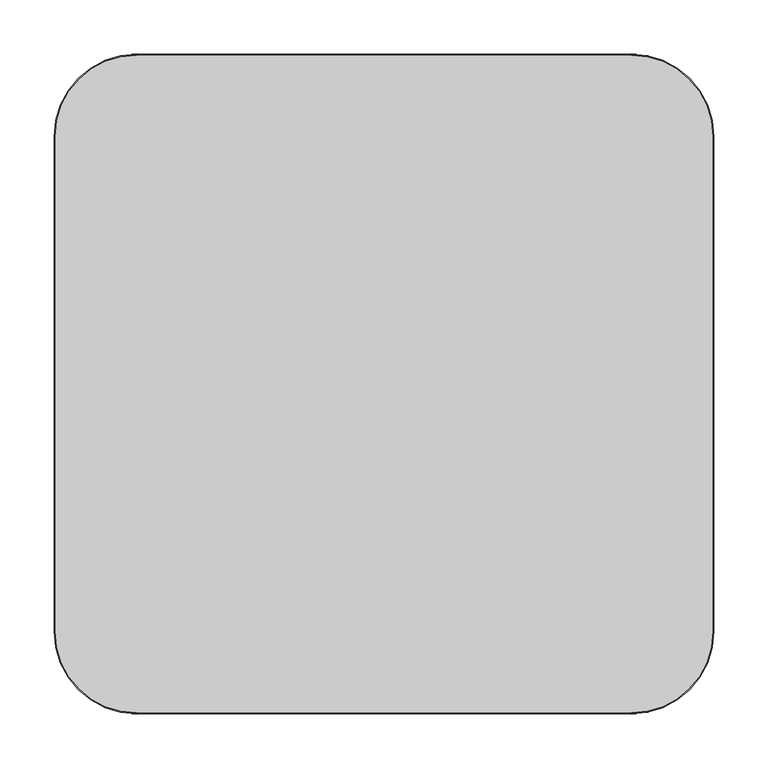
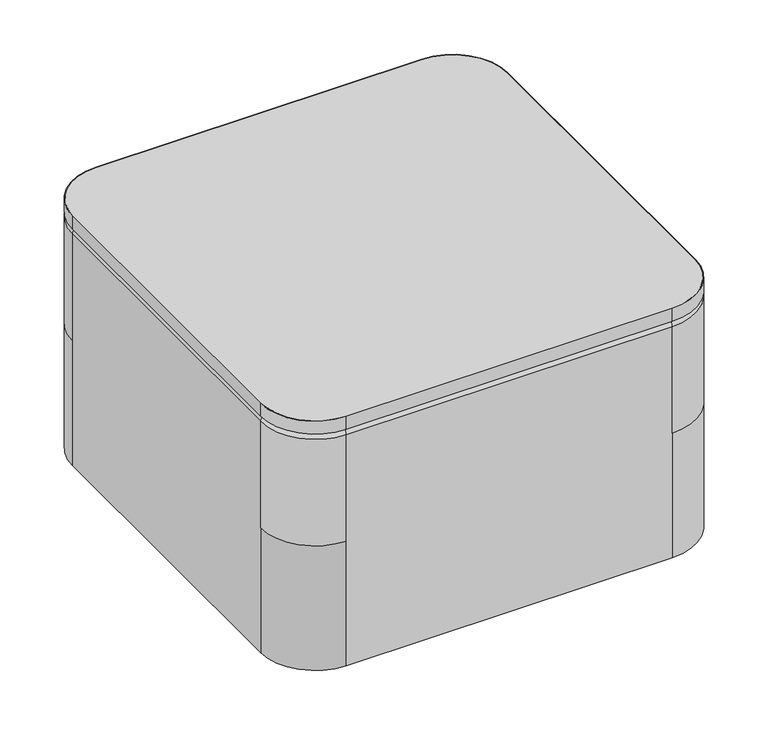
"""IFC4 building model written with IfcOpenShell, lengths in millimetres: furniture geometry, Indiana-Otty-Ottoman_Square_Table : 840-2415SOT."""

from ifc_helpers import new_model, si_unit, point, frame, frame_2d, origin, place, context, project, spatial, polyline, circle_curve, ellipse_curve, trimmed, segment, composite_curve, outline, extrude, source, transform, mapped, element, save
from ifc_brep_helpers import plane_surface, cylinder_surface, revolved_surface, advanced_brep


def furniture_a9f47ea0(model_context):
    return source(origin(), model_context, "Body", "SolidModel", [
        extrude(outline(composite_curve([segment(trimmed(circle_curve(frame_2d((228.6, 228.6)), 75.2078125), [point((228.6, 303.8078125))], [point((303.8078125, 228.6))], False, "CARTESIAN"), True, "CONTINUOUS"), segment(polyline([(303.8078125, 228.6), (303.8078125, -228.6)]), True, "CONTINUOUS"), segment(trimmed(circle_curve(frame_2d((228.6, -228.6)), 75.2078125), [point((303.8078125, -228.6))], [point((228.6, -303.8078125))], False, "CARTESIAN"), True, "CONTINUOUS"), segment(polyline([(228.6, -303.8078125), (-228.6, -303.8078125)]), True, "CONTINUOUS"), segment(trimmed(circle_curve(frame_2d((-228.6, -228.6)), 75.2078125), [point((-228.6, -303.8078125))], [point((-303.8078125, -228.6))], False, "CARTESIAN"), True, "CONTINUOUS"), segment(polyline([(-303.8078125, -228.6), (-303.8078125, 228.6)]), True, "CONTINUOUS"), segment(trimmed(circle_curve(frame_2d((-228.6, 228.6)), 75.2078125), [point((-303.8078125, 228.6))], [point((-228.6, 303.8078125))], False, "CARTESIAN"), True, "CONTINUOUS"), segment(polyline([(-228.6, 303.8078125), (228.6, 303.8078125)]), True, "CONTINUOUS")], self_intersect=False)), frame((0.0, 0.0, 361.95), z_axis=(0.0, 0.0, 1.0), x_axis=(1.0, 0.0, 0.0)), (0.0, 0.0, 1.0), 19.05),
        extrude(outline(composite_curve([segment(polyline([(-304.8, -228.6), (-304.8, 228.6)]), True, "CONTINUOUS"), segment(trimmed(circle_curve(frame_2d((-228.6, 228.6)), 76.2), [point((-304.8, 228.6))], [point((-228.6, 304.8))], False, "CARTESIAN"), True, "CONTINUOUS"), segment(polyline([(-228.6, 304.8), (228.6, 304.8)]), True, "CONTINUOUS"), segment(trimmed(circle_curve(frame_2d((228.6, 228.6)), 76.2), [point((228.6, 304.8))], [point((304.8, 228.6))], False, "CARTESIAN"), True, "CONTINUOUS"), segment(polyline([(304.8, 228.6), (304.8, -228.6)]), True, "CONTINUOUS"), segment(trimmed(circle_curve(frame_2d((228.6, -228.6)), 76.2), [point((304.8, -228.6))], [point((228.6, -304.8))], False, "CARTESIAN"), True, "CONTINUOUS"), segment(polyline([(228.6, -304.8), (-228.6, -304.8)]), True, "CONTINUOUS"), segment(trimmed(circle_curve(frame_2d((-228.6, -228.6)), 76.2), [point((-228.6, -304.8))], [point((-304.8, -228.6))], False, "CARTESIAN"), True, "CONTINUOUS")], self_intersect=False), holes=[composite_curve([segment(polyline([(228.6, 303.8078125), (-228.6, 303.8078125)]), True, "CONTINUOUS"), segment(trimmed(circle_curve(frame_2d((-228.6, 228.6)), 75.2078125), [point((-228.6, 303.8078125))], [point((-303.8078125, 228.6))], True, "CARTESIAN"), True, "CONTINUOUS"), segment(polyline([(-303.8078125, 228.6), (-303.8078125, -228.6)]), True, "CONTINUOUS"), segment(trimmed(circle_curve(frame_2d((-228.6, -228.6)), 75.2078125), [point((-303.8078125, -228.6))], [point((-228.6, -303.8078125))], True, "CARTESIAN"), True, "CONTINUOUS"), segment(polyline([(-228.6, -303.8078125), (228.6, -303.8078125)]), True, "CONTINUOUS"), segment(trimmed(circle_curve(frame_2d((228.6, -228.6)), 75.2078125), [point((228.6, -303.8078125))], [point((303.8078125, -228.6))], True, "CARTESIAN"), True, "CONTINUOUS"), segment(polyline([(303.8078125, -228.6), (303.8078125, 228.6)]), True, "CONTINUOUS"), segment(trimmed(circle_curve(frame_2d((228.6, 228.6)), 75.2078125), [point((303.8078125, 228.6))], [point((228.6, 303.8078125))], True, "CARTESIAN"), True, "CONTINUOUS")], self_intersect=False)]), frame((0.0, 0.0, 361.95), z_axis=(0.0, 0.0, 1.0), x_axis=(1.0, 0.0, 0.0)), (0.0, 0.0, 1.0), 19.05),
        advanced_brep(
        [(0.0, -250.825, 19.8875), (0.0, -273.325, 19.8875), (0.0, -228.325, 19.8875), (0.0, -272.8765082, 4.2458827), (0.0, -228.7734918, 4.2458827), (0.0, -268.3913665, -0.1125), (0.0, -233.2586335, -0.1125), (0.0, -261.0926178, -0.1125), (0.0, -240.5573822, -0.1125), (0.0, -257.1981417, 3.9179615), (0.0, -244.4518583, 3.9179615), (0.0, -250.825, 3.9179615)],
        [
            (0, 1),
            (1, 2, circle_curve(frame((0.0, -250.825, 19.8875), z_axis=(0.0, 0.0, 1.0), x_axis=(0.0, -1.0, 0.0)), 22.5)),
            (2, 0),
            (2, 1, circle_curve(frame((0.0, -250.825, 19.8875), z_axis=(0.0, 0.0, 1.0), x_axis=(0.0, -1.0, 0.0)), 22.5)),
            (1, 3),
            (3, 4, circle_curve(frame((0.0, -250.825, 4.2458827), z_axis=(0.0, 0.0, 1.0), x_axis=(0.0, -1.0, 0.0)), 22.0515082)),
            (4, 2),
            (4, 3, circle_curve(frame((0.0, -250.825, 4.2458827), z_axis=(0.0, 0.0, 1.0), x_axis=(0.0, -1.0, 0.0)), 22.0515082)),
            (3, 5, circle_curve(frame((0.0, -268.3913665, 4.3744851), z_axis=(1.0, 0.0, 0.0), x_axis=(0.0, 1.0, 0.0)), 4.4869851)),
            (5, 6, circle_curve(frame((0.0, -250.825, -0.1125), z_axis=(0.0, 0.0, 1.0), x_axis=(0.0, -1.0, 0.0)), 17.5663665)),
            (6, 4, circle_curve(frame((0.0, -233.2586335, 4.3744851), z_axis=(1.0, 0.0, 0.0), x_axis=(0.0, -1.0, 0.0)), 4.4869851)),
            (6, 5, circle_curve(frame((0.0, -250.825, -0.1125), z_axis=(0.0, 0.0, 1.0), x_axis=(0.0, -1.0, 0.0)), 17.5663665)),
            (5, 7),
            (7, 8, circle_curve(frame((0.0, -250.825, -0.1125), z_axis=(0.0, 0.0, 1.0), x_axis=(0.0, -1.0, 0.0)), 10.2676178)),
            (8, 6),
            (8, 7, circle_curve(frame((0.0, -250.825, -0.1125), z_axis=(0.0, 0.0, 1.0), x_axis=(0.0, -1.0, 0.0)), 10.2676178)),
            (7, 9, circle_curve(frame((0.0, -261.0926178, 3.7842702), z_axis=(1.0, 0.0, 0.0), x_axis=(0.0, 1.0, 0.0)), 3.8967702)),
            (9, 10, circle_curve(frame((0.0, -250.825, 3.9179615), z_axis=(0.0, 0.0, 1.0), x_axis=(0.0, -1.0, 0.0)), 6.3731417)),
            (10, 8, circle_curve(frame((0.0, -240.5573822, 3.7842702), z_axis=(1.0, 0.0, 0.0), x_axis=(0.0, -1.0, 0.0)), 3.8967702)),
            (10, 9, circle_curve(frame((0.0, -250.825, 3.9179615), z_axis=(0.0, 0.0, 1.0), x_axis=(0.0, -1.0, 0.0)), 6.3731417)),
            (9, 11),
            (11, 10),
        ],
        [
            plane_surface(frame((0.0, -250.825, 19.8875), z_axis=(0.0, 0.0, 1.0), x_axis=(0.0, -1.0, 0.0))),
            revolved_surface(polyline([(0.0, -272.8765082, 4.2458827), (0.0, -273.325, 19.8875)]), (0.0, -250.825, 31.0803862), (0.0, 0.0, 1.0)),
            revolved_surface(trimmed(ellipse_curve(frame((0.0, -268.3913665, 4.3744851), z_axis=(-1.0, 0.0, 0.0), x_axis=(0.0, 1.0, 0.0)), 4.4869851, 4.4869851), [point((0.0, -268.3913665, -0.1125))], [point((0.0, -272.8765082, 4.2458827))], True, "CARTESIAN"), (0.0, -250.825, 31.0803862), (0.0, 0.0, 1.0)),
            plane_surface(frame((0.0, -250.825, -0.1125), z_axis=(0.0, 0.0, -1.0), x_axis=(0.0, -1.0, 0.0))),
            revolved_surface(trimmed(ellipse_curve(frame((0.0, -261.0926178, 3.7842702), z_axis=(-1.0, 0.0, 0.0), x_axis=(0.0, 1.0, 0.0)), 3.8967702, 3.8967702), [point((0.0, -257.1981417, 3.9179615))], [point((0.0, -261.0926178, -0.1125))], True, "CARTESIAN"), (0.0, -250.825, 31.0803862), (0.0, 0.0, 1.0)),
            plane_surface(frame((0.0, -250.825, 3.9179615), z_axis=(0.0, 0.0, -1.0), x_axis=(0.0, -1.0, 0.0))),
        ],
        [
            (0, [[1, 2, 3]]),
            (0, [[-3, 4, -1]]),
            (1, [[-2, 5, 6, 7]]),
            (1, [[-4, -7, 8, -5]]),
            (2, [[-6, 9, 10, 11]]),
            (2, [[-8, -11, 12, -9]]),
            (3, [[-10, 13, 14, 15]]),
            (3, [[-12, -15, 16, -13]]),
            (4, [[-14, 17, 18, 19]]),
            (4, [[-16, -19, 20, -17]]),
            (5, [[-18, 21, 22]]),
            (5, [[-20, -22, -21]]),
        ],
    ),
        advanced_brep(
        [(0.0, 250.825, 19.8875), (0.0, 228.325, 19.8875), (0.0, 273.325, 19.8875), (0.0, 228.7734918, 4.2458827), (0.0, 272.8765082, 4.2458827), (0.0, 233.2586335, -0.1125), (0.0, 268.3913665, -0.1125), (0.0, 240.5573822, -0.1125), (0.0, 261.0926178, -0.1125), (0.0, 244.4518583, 3.9179615), (0.0, 257.1981417, 3.9179615), (0.0, 250.825, 3.9179615)],
        [
            (0, 1),
            (1, 2, circle_curve(frame((0.0, 250.825, 19.8875), z_axis=(0.0, 0.0, 1.0), x_axis=(0.0, -1.0, 0.0)), 22.5)),
            (2, 0),
            (2, 1, circle_curve(frame((0.0, 250.825, 19.8875), z_axis=(0.0, 0.0, 1.0), x_axis=(0.0, -1.0, 0.0)), 22.5)),
            (1, 3),
            (3, 4, circle_curve(frame((0.0, 250.825, 4.2458827), z_axis=(0.0, 0.0, 1.0), x_axis=(0.0, -1.0, 0.0)), 22.0515082)),
            (4, 2),
            (4, 3, circle_curve(frame((0.0, 250.825, 4.2458827), z_axis=(0.0, 0.0, 1.0), x_axis=(0.0, -1.0, 0.0)), 22.0515082)),
            (3, 5, circle_curve(frame((0.0, 233.2586335, 4.3744851), z_axis=(1.0, 0.0, 0.0), x_axis=(0.0, 1.0, 0.0)), 4.4869851)),
            (5, 6, circle_curve(frame((0.0, 250.825, -0.1125), z_axis=(0.0, 0.0, 1.0), x_axis=(0.0, -1.0, 0.0)), 17.5663665)),
            (6, 4, circle_curve(frame((0.0, 268.3913665, 4.3744851), z_axis=(1.0, 0.0, 0.0), x_axis=(0.0, -1.0, 0.0)), 4.4869851)),
            (6, 5, circle_curve(frame((0.0, 250.825, -0.1125), z_axis=(0.0, 0.0, 1.0), x_axis=(0.0, -1.0, 0.0)), 17.5663665)),
            (5, 7),
            (7, 8, circle_curve(frame((0.0, 250.825, -0.1125), z_axis=(0.0, 0.0, 1.0), x_axis=(0.0, -1.0, 0.0)), 10.2676178)),
            (8, 6),
            (8, 7, circle_curve(frame((0.0, 250.825, -0.1125), z_axis=(0.0, 0.0, 1.0), x_axis=(0.0, -1.0, 0.0)), 10.2676178)),
            (7, 9, circle_curve(frame((0.0, 240.5573822, 3.7842702), z_axis=(1.0, 0.0, 0.0), x_axis=(0.0, 1.0, 0.0)), 3.8967702)),
            (9, 10, circle_curve(frame((0.0, 250.825, 3.9179615), z_axis=(0.0, 0.0, 1.0), x_axis=(0.0, -1.0, 0.0)), 6.3731417)),
            (10, 8, circle_curve(frame((0.0, 261.0926178, 3.7842702), z_axis=(1.0, 0.0, 0.0), x_axis=(0.0, -1.0, 0.0)), 3.8967702)),
            (10, 9, circle_curve(frame((0.0, 250.825, 3.9179615), z_axis=(0.0, 0.0, 1.0), x_axis=(0.0, -1.0, 0.0)), 6.3731417)),
            (9, 11),
            (11, 10),
        ],
        [
            plane_surface(frame((0.0, 250.825, 19.8875), z_axis=(0.0, 0.0, 1.0), x_axis=(0.0, -1.0, 0.0))),
            revolved_surface(polyline([(0.0, 228.7734918, 4.2458827), (0.0, 228.325, 19.8875)]), (0.0, 250.825, 31.0803862), (0.0, 0.0, 1.0)),
            revolved_surface(trimmed(ellipse_curve(frame((0.0, 233.2586335, 4.3744851), z_axis=(-1.0, 0.0, 0.0), x_axis=(0.0, 1.0, 0.0)), 4.4869851, 4.4869851), [point((0.0, 233.2586335, -0.1125))], [point((0.0, 228.7734918, 4.2458827))], True, "CARTESIAN"), (0.0, 250.825, 31.0803862), (0.0, 0.0, 1.0)),
            plane_surface(frame((0.0, 250.825, -0.1125), z_axis=(0.0, 0.0, -1.0), x_axis=(0.0, -1.0, 0.0))),
            revolved_surface(trimmed(ellipse_curve(frame((0.0, 240.5573822, 3.7842702), z_axis=(-1.0, 0.0, 0.0), x_axis=(0.0, 1.0, 0.0)), 3.8967702, 3.8967702), [point((0.0, 244.4518583, 3.9179615))], [point((0.0, 240.5573822, -0.1125))], True, "CARTESIAN"), (0.0, 250.825, 31.0803862), (0.0, 0.0, 1.0)),
            plane_surface(frame((0.0, 250.825, 3.9179615), z_axis=(0.0, 0.0, -1.0), x_axis=(0.0, -1.0, 0.0))),
        ],
        [
            (0, [[1, 2, 3]]),
            (0, [[-3, 4, -1]]),
            (1, [[-2, 5, 6, 7]]),
            (1, [[-4, -7, 8, -5]]),
            (2, [[-6, 9, 10, 11]]),
            (2, [[-8, -11, 12, -9]]),
            (3, [[-10, 13, 14, 15]]),
            (3, [[-12, -15, 16, -13]]),
            (4, [[-14, 17, 18, 19]]),
            (4, [[-16, -19, 20, -17]]),
            (5, [[-18, 21, 22]]),
            (5, [[-20, -22, -21]]),
        ],
    ),
        advanced_brep(
        [(250.825, -250.825, 19.8875), (250.825, -273.325, 19.8875), (250.825, -228.325, 19.8875), (250.825, -272.8765082, 4.2458827), (250.825, -228.7734918, 4.2458827), (250.825, -268.3913665, -0.1125), (250.825, -233.2586335, -0.1125), (250.825, -261.0926178, -0.1125), (250.825, -240.5573822, -0.1125), (250.825, -257.1981417, 3.9179615), (250.825, -244.4518583, 3.9179615), (250.825, -250.825, 3.9179615)],
        [
            (0, 1),
            (1, 2, circle_curve(frame((250.825, -250.825, 19.8875), z_axis=(0.0, 0.0, 1.0), x_axis=(0.0, -1.0, 0.0)), 22.5)),
            (2, 0),
            (2, 1, circle_curve(frame((250.825, -250.825, 19.8875), z_axis=(0.0, 0.0, 1.0), x_axis=(0.0, -1.0, 0.0)), 22.5)),
            (1, 3),
            (3, 4, circle_curve(frame((250.825, -250.825, 4.2458827), z_axis=(0.0, 0.0, 1.0), x_axis=(0.0, -1.0, 0.0)), 22.0515082)),
            (4, 2),
            (4, 3, circle_curve(frame((250.825, -250.825, 4.2458827), z_axis=(0.0, 0.0, 1.0), x_axis=(0.0, -1.0, 0.0)), 22.0515082)),
            (3, 5, circle_curve(frame((250.825, -268.3913665, 4.3744851), z_axis=(1.0, 0.0, 0.0), x_axis=(0.0, 1.0, 0.0)), 4.4869851)),
            (5, 6, circle_curve(frame((250.825, -250.825, -0.1125), z_axis=(0.0, 0.0, 1.0), x_axis=(0.0, -1.0, 0.0)), 17.5663665)),
            (6, 4, circle_curve(frame((250.825, -233.2586335, 4.3744851), z_axis=(1.0, 0.0, 0.0), x_axis=(0.0, -1.0, 0.0)), 4.4869851)),
            (6, 5, circle_curve(frame((250.825, -250.825, -0.1125), z_axis=(0.0, 0.0, 1.0), x_axis=(0.0, -1.0, 0.0)), 17.5663665)),
            (5, 7),
            (7, 8, circle_curve(frame((250.825, -250.825, -0.1125), z_axis=(0.0, 0.0, 1.0), x_axis=(0.0, -1.0, 0.0)), 10.2676178)),
            (8, 6),
            (8, 7, circle_curve(frame((250.825, -250.825, -0.1125), z_axis=(0.0, 0.0, 1.0), x_axis=(0.0, -1.0, 0.0)), 10.2676178)),
            (7, 9, circle_curve(frame((250.825, -261.0926178, 3.7842702), z_axis=(1.0, 0.0, 0.0), x_axis=(0.0, 1.0, 0.0)), 3.8967702)),
            (9, 10, circle_curve(frame((250.825, -250.825, 3.9179615), z_axis=(0.0, 0.0, 1.0), x_axis=(0.0, -1.0, 0.0)), 6.3731417)),
            (10, 8, circle_curve(frame((250.825, -240.5573822, 3.7842702), z_axis=(1.0, 0.0, 0.0), x_axis=(0.0, -1.0, 0.0)), 3.8967702)),
            (10, 9, circle_curve(frame((250.825, -250.825, 3.9179615), z_axis=(0.0, 0.0, 1.0), x_axis=(0.0, -1.0, 0.0)), 6.3731417)),
            (9, 11),
            (11, 10),
        ],
        [
            plane_surface(frame((250.825, -250.825, 19.8875), z_axis=(0.0, 0.0, 1.0), x_axis=(0.0, -1.0, 0.0))),
            revolved_surface(polyline([(250.825, -272.8765082, 4.2458827), (250.825, -273.325, 19.8875)]), (250.825, -250.825, 31.0803862), (0.0, 0.0, 1.0)),
            revolved_surface(trimmed(ellipse_curve(frame((250.825, -268.3913665, 4.3744851), z_axis=(-1.0, 0.0, 0.0), x_axis=(0.0, 1.0, 0.0)), 4.4869851, 4.4869851), [point((250.825, -268.3913665, -0.1125))], [point((250.825, -272.8765082, 4.2458827))], True, "CARTESIAN"), (250.825, -250.825, 31.0803862), (0.0, 0.0, 1.0)),
            plane_surface(frame((250.825, -250.825, -0.1125), z_axis=(0.0, 0.0, -1.0), x_axis=(0.0, -1.0, 0.0))),
            revolved_surface(trimmed(ellipse_curve(frame((250.825, -261.0926178, 3.7842702), z_axis=(-1.0, 0.0, 0.0), x_axis=(0.0, 1.0, 0.0)), 3.8967702, 3.8967702), [point((250.825, -257.1981417, 3.9179615))], [point((250.825, -261.0926178, -0.1125))], True, "CARTESIAN"), (250.825, -250.825, 31.0803862), (0.0, 0.0, 1.0)),
            plane_surface(frame((250.825, -250.825, 3.9179615), z_axis=(0.0, 0.0, -1.0), x_axis=(0.0, -1.0, 0.0))),
        ],
        [
            (0, [[1, 2, 3]]),
            (0, [[-3, 4, -1]]),
            (1, [[-2, 5, 6, 7]]),
            (1, [[-4, -7, 8, -5]]),
            (2, [[-6, 9, 10, 11]]),
            (2, [[-8, -11, 12, -9]]),
            (3, [[-10, 13, 14, 15]]),
            (3, [[-12, -15, 16, -13]]),
            (4, [[-14, 17, 18, 19]]),
            (4, [[-16, -19, 20, -17]]),
            (5, [[-18, 21, 22]]),
            (5, [[-20, -22, -21]]),
        ],
    ),
        advanced_brep(
        [(250.825, 250.825, 19.8875), (250.825, 228.325, 19.8875), (250.825, 273.325, 19.8875), (250.825, 228.7734918, 4.2458827), (250.825, 272.8765082, 4.2458827), (250.825, 233.2586335, -0.1125), (250.825, 268.3913665, -0.1125), (250.825, 240.5573822, -0.1125), (250.825, 261.0926178, -0.1125), (250.825, 244.4518583, 3.9179615), (250.825, 257.1981417, 3.9179615), (250.825, 250.825, 3.9179615)],
        [
            (0, 1),
            (1, 2, circle_curve(frame((250.825, 250.825, 19.8875), z_axis=(0.0, 0.0, 1.0), x_axis=(0.0, -1.0, 0.0)), 22.5)),
            (2, 0),
            (2, 1, circle_curve(frame((250.825, 250.825, 19.8875), z_axis=(0.0, 0.0, 1.0), x_axis=(0.0, -1.0, 0.0)), 22.5)),
            (1, 3),
            (3, 4, circle_curve(frame((250.825, 250.825, 4.2458827), z_axis=(0.0, 0.0, 1.0), x_axis=(0.0, -1.0, 0.0)), 22.0515082)),
            (4, 2),
            (4, 3, circle_curve(frame((250.825, 250.825, 4.2458827), z_axis=(0.0, 0.0, 1.0), x_axis=(0.0, -1.0, 0.0)), 22.0515082)),
            (3, 5, circle_curve(frame((250.825, 233.2586335, 4.3744851), z_axis=(1.0, 0.0, 0.0), x_axis=(0.0, 1.0, 0.0)), 4.4869851)),
            (5, 6, circle_curve(frame((250.825, 250.825, -0.1125), z_axis=(0.0, 0.0, 1.0), x_axis=(0.0, -1.0, 0.0)), 17.5663665)),
            (6, 4, circle_curve(frame((250.825, 268.3913665, 4.3744851), z_axis=(1.0, 0.0, 0.0), x_axis=(0.0, -1.0, 0.0)), 4.4869851)),
            (6, 5, circle_curve(frame((250.825, 250.825, -0.1125), z_axis=(0.0, 0.0, 1.0), x_axis=(0.0, -1.0, 0.0)), 17.5663665)),
            (5, 7),
            (7, 8, circle_curve(frame((250.825, 250.825, -0.1125), z_axis=(0.0, 0.0, 1.0), x_axis=(0.0, -1.0, 0.0)), 10.2676178)),
            (8, 6),
            (8, 7, circle_curve(frame((250.825, 250.825, -0.1125), z_axis=(0.0, 0.0, 1.0), x_axis=(0.0, -1.0, 0.0)), 10.2676178)),
            (7, 9, circle_curve(frame((250.825, 240.5573822, 3.7842702), z_axis=(1.0, 0.0, 0.0), x_axis=(0.0, 1.0, 0.0)), 3.8967702)),
            (9, 10, circle_curve(frame((250.825, 250.825, 3.9179615), z_axis=(0.0, 0.0, 1.0), x_axis=(0.0, -1.0, 0.0)), 6.3731417)),
            (10, 8, circle_curve(frame((250.825, 261.0926178, 3.7842702), z_axis=(1.0, 0.0, 0.0), x_axis=(0.0, -1.0, 0.0)), 3.8967702)),
            (10, 9, circle_curve(frame((250.825, 250.825, 3.9179615), z_axis=(0.0, 0.0, 1.0), x_axis=(0.0, -1.0, 0.0)), 6.3731417)),
            (9, 11),
            (11, 10),
        ],
        [
            plane_surface(frame((250.825, 250.825, 19.8875), z_axis=(0.0, 0.0, 1.0), x_axis=(0.0, -1.0, 0.0))),
            revolved_surface(polyline([(250.825, 228.7734918, 4.2458827), (250.825, 228.325, 19.8875)]), (250.825, 250.825, 31.0803862), (0.0, 0.0, 1.0)),
            revolved_surface(trimmed(ellipse_curve(frame((250.825, 233.2586335, 4.3744851), z_axis=(-1.0, 0.0, 0.0), x_axis=(0.0, 1.0, 0.0)), 4.4869851, 4.4869851), [point((250.825, 233.2586335, -0.1125))], [point((250.825, 228.7734918, 4.2458827))], True, "CARTESIAN"), (250.825, 250.825, 31.0803862), (0.0, 0.0, 1.0)),
            plane_surface(frame((250.825, 250.825, -0.1125), z_axis=(0.0, 0.0, -1.0), x_axis=(0.0, -1.0, 0.0))),
            revolved_surface(trimmed(ellipse_curve(frame((250.825, 240.5573822, 3.7842702), z_axis=(-1.0, 0.0, 0.0), x_axis=(0.0, 1.0, 0.0)), 3.8967702, 3.8967702), [point((250.825, 244.4518583, 3.9179615))], [point((250.825, 240.5573822, -0.1125))], True, "CARTESIAN"), (250.825, 250.825, 31.0803862), (0.0, 0.0, 1.0)),
            plane_surface(frame((250.825, 250.825, 3.9179615), z_axis=(0.0, 0.0, -1.0), x_axis=(0.0, -1.0, 0.0))),
        ],
        [
            (0, [[1, 2, 3]]),
            (0, [[-3, 4, -1]]),
            (1, [[-2, 5, 6, 7]]),
            (1, [[-4, -7, 8, -5]]),
            (2, [[-6, 9, 10, 11]]),
            (2, [[-8, -11, 12, -9]]),
            (3, [[-10, 13, 14, 15]]),
            (3, [[-12, -15, 16, -13]]),
            (4, [[-14, 17, 18, 19]]),
            (4, [[-16, -19, 20, -17]]),
            (5, [[-18, 21, 22]]),
            (5, [[-20, -22, -21]]),
        ],
    ),
        advanced_brep(
        [(-250.825, -250.825, 19.8875), (-250.825, -273.325, 19.8875), (-250.825, -228.325, 19.8875), (-250.825, -272.8765082, 4.2458827), (-250.825, -228.7734918, 4.2458827), (-250.825, -268.3913665, -0.1125), (-250.825, -233.2586335, -0.1125), (-250.825, -261.0926178, -0.1125), (-250.825, -240.5573822, -0.1125), (-250.825, -257.1981417, 3.9179615), (-250.825, -244.4518583, 3.9179615), (-250.825, -250.825, 3.9179615)],
        [
            (0, 1),
            (1, 2, circle_curve(frame((-250.825, -250.825, 19.8875), z_axis=(0.0, 0.0, 1.0), x_axis=(0.0, -1.0, 0.0)), 22.5)),
            (2, 0),
            (2, 1, circle_curve(frame((-250.825, -250.825, 19.8875), z_axis=(0.0, 0.0, 1.0), x_axis=(0.0, -1.0, 0.0)), 22.5)),
            (1, 3),
            (3, 4, circle_curve(frame((-250.825, -250.825, 4.2458827), z_axis=(0.0, 0.0, 1.0), x_axis=(0.0, -1.0, 0.0)), 22.0515082)),
            (4, 2),
            (4, 3, circle_curve(frame((-250.825, -250.825, 4.2458827), z_axis=(0.0, 0.0, 1.0), x_axis=(0.0, -1.0, 0.0)), 22.0515082)),
            (3, 5, circle_curve(frame((-250.825, -268.3913665, 4.3744851), z_axis=(1.0, 0.0, 0.0), x_axis=(0.0, 1.0, 0.0)), 4.4869851)),
            (5, 6, circle_curve(frame((-250.825, -250.825, -0.1125), z_axis=(0.0, 0.0, 1.0), x_axis=(0.0, -1.0, 0.0)), 17.5663665)),
            (6, 4, circle_curve(frame((-250.825, -233.2586335, 4.3744851), z_axis=(1.0, 0.0, 0.0), x_axis=(0.0, -1.0, 0.0)), 4.4869851)),
            (6, 5, circle_curve(frame((-250.825, -250.825, -0.1125), z_axis=(0.0, 0.0, 1.0), x_axis=(0.0, -1.0, 0.0)), 17.5663665)),
            (5, 7),
            (7, 8, circle_curve(frame((-250.825, -250.825, -0.1125), z_axis=(0.0, 0.0, 1.0), x_axis=(0.0, -1.0, 0.0)), 10.2676178)),
            (8, 6),
            (8, 7, circle_curve(frame((-250.825, -250.825, -0.1125), z_axis=(0.0, 0.0, 1.0), x_axis=(0.0, -1.0, 0.0)), 10.2676178)),
            (7, 9, circle_curve(frame((-250.825, -261.0926178, 3.7842702), z_axis=(1.0, 0.0, 0.0), x_axis=(0.0, 1.0, 0.0)), 3.8967702)),
            (9, 10, circle_curve(frame((-250.825, -250.825, 3.9179615), z_axis=(0.0, 0.0, 1.0), x_axis=(0.0, -1.0, 0.0)), 6.3731417)),
            (10, 8, circle_curve(frame((-250.825, -240.5573822, 3.7842702), z_axis=(1.0, 0.0, 0.0), x_axis=(0.0, -1.0, 0.0)), 3.8967702)),
            (10, 9, circle_curve(frame((-250.825, -250.825, 3.9179615), z_axis=(0.0, 0.0, 1.0), x_axis=(0.0, -1.0, 0.0)), 6.3731417)),
            (9, 11),
            (11, 10),
        ],
        [
            plane_surface(frame((-250.825, -250.825, 19.8875), z_axis=(0.0, 0.0, 1.0), x_axis=(0.0, -1.0, 0.0))),
            revolved_surface(polyline([(-250.825, -272.8765082, 4.2458827), (-250.825, -273.325, 19.8875)]), (-250.825, -250.825, 31.0803862), (0.0, 0.0, 1.0)),
            revolved_surface(trimmed(ellipse_curve(frame((-250.825, -268.3913665, 4.3744851), z_axis=(-1.0, 0.0, 0.0), x_axis=(0.0, 1.0, 0.0)), 4.4869851, 4.4869851), [point((-250.825, -268.3913665, -0.1125))], [point((-250.825, -272.8765082, 4.2458827))], True, "CARTESIAN"), (-250.825, -250.825, 31.0803862), (0.0, 0.0, 1.0)),
            plane_surface(frame((-250.825, -250.825, -0.1125), z_axis=(0.0, 0.0, -1.0), x_axis=(0.0, -1.0, 0.0))),
            revolved_surface(trimmed(ellipse_curve(frame((-250.825, -261.0926178, 3.7842702), z_axis=(-1.0, 0.0, 0.0), x_axis=(0.0, 1.0, 0.0)), 3.8967702, 3.8967702), [point((-250.825, -257.1981417, 3.9179615))], [point((-250.825, -261.0926178, -0.1125))], True, "CARTESIAN"), (-250.825, -250.825, 31.0803862), (0.0, 0.0, 1.0)),
            plane_surface(frame((-250.825, -250.825, 3.9179615), z_axis=(0.0, 0.0, -1.0), x_axis=(0.0, -1.0, 0.0))),
        ],
        [
            (0, [[1, 2, 3]]),
            (0, [[-3, 4, -1]]),
            (1, [[-2, 5, 6, 7]]),
            (1, [[-4, -7, 8, -5]]),
            (2, [[-6, 9, 10, 11]]),
            (2, [[-8, -11, 12, -9]]),
            (3, [[-10, 13, 14, 15]]),
            (3, [[-12, -15, 16, -13]]),
            (4, [[-14, 17, 18, 19]]),
            (4, [[-16, -19, 20, -17]]),
            (5, [[-18, 21, 22]]),
            (5, [[-20, -22, -21]]),
        ],
    ),
        advanced_brep(
        [(-250.825, 250.825, 19.8875), (-250.825, 228.325, 19.8875), (-250.825, 273.325, 19.8875), (-250.825, 228.7734918, 4.2458827), (-250.825, 272.8765082, 4.2458827), (-250.825, 233.2586335, -0.1125), (-250.825, 268.3913665, -0.1125), (-250.825, 240.5573822, -0.1125), (-250.825, 261.0926178, -0.1125), (-250.825, 244.4518583, 3.9179615), (-250.825, 257.1981417, 3.9179615), (-250.825, 250.825, 3.9179615)],
        [
            (0, 1),
            (1, 2, circle_curve(frame((-250.825, 250.825, 19.8875), z_axis=(0.0, 0.0, 1.0), x_axis=(0.0, -1.0, 0.0)), 22.5)),
            (2, 0),
            (2, 1, circle_curve(frame((-250.825, 250.825, 19.8875), z_axis=(0.0, 0.0, 1.0), x_axis=(0.0, -1.0, 0.0)), 22.5)),
            (1, 3),
            (3, 4, circle_curve(frame((-250.825, 250.825, 4.2458827), z_axis=(0.0, 0.0, 1.0), x_axis=(0.0, -1.0, 0.0)), 22.0515082)),
            (4, 2),
            (4, 3, circle_curve(frame((-250.825, 250.825, 4.2458827), z_axis=(0.0, 0.0, 1.0), x_axis=(0.0, -1.0, 0.0)), 22.0515082)),
            (3, 5, circle_curve(frame((-250.825, 233.2586335, 4.3744851), z_axis=(1.0, 0.0, 0.0), x_axis=(0.0, 1.0, 0.0)), 4.4869851)),
            (5, 6, circle_curve(frame((-250.825, 250.825, -0.1125), z_axis=(0.0, 0.0, 1.0), x_axis=(0.0, -1.0, 0.0)), 17.5663665)),
            (6, 4, circle_curve(frame((-250.825, 268.3913665, 4.3744851), z_axis=(1.0, 0.0, 0.0), x_axis=(0.0, -1.0, 0.0)), 4.4869851)),
            (6, 5, circle_curve(frame((-250.825, 250.825, -0.1125), z_axis=(0.0, 0.0, 1.0), x_axis=(0.0, -1.0, 0.0)), 17.5663665)),
            (5, 7),
            (7, 8, circle_curve(frame((-250.825, 250.825, -0.1125), z_axis=(0.0, 0.0, 1.0), x_axis=(0.0, -1.0, 0.0)), 10.2676178)),
            (8, 6),
            (8, 7, circle_curve(frame((-250.825, 250.825, -0.1125), z_axis=(0.0, 0.0, 1.0), x_axis=(0.0, -1.0, 0.0)), 10.2676178)),
            (7, 9, circle_curve(frame((-250.825, 240.5573822, 3.7842702), z_axis=(1.0, 0.0, 0.0), x_axis=(0.0, 1.0, 0.0)), 3.8967702)),
            (9, 10, circle_curve(frame((-250.825, 250.825, 3.9179615), z_axis=(0.0, 0.0, 1.0), x_axis=(0.0, -1.0, 0.0)), 6.3731417)),
            (10, 8, circle_curve(frame((-250.825, 261.0926178, 3.7842702), z_axis=(1.0, 0.0, 0.0), x_axis=(0.0, -1.0, 0.0)), 3.8967702)),
            (10, 9, circle_curve(frame((-250.825, 250.825, 3.9179615), z_axis=(0.0, 0.0, 1.0), x_axis=(0.0, -1.0, 0.0)), 6.3731417)),
            (9, 11),
            (11, 10),
        ],
        [
            plane_surface(frame((-250.825, 250.825, 19.8875), z_axis=(0.0, 0.0, 1.0), x_axis=(0.0, -1.0, 0.0))),
            revolved_surface(polyline([(-250.825, 228.7734918, 4.2458827), (-250.825, 228.325, 19.8875)]), (-250.825, 250.825, 31.0803862), (0.0, 0.0, 1.0)),
            revolved_surface(trimmed(ellipse_curve(frame((-250.825, 233.2586335, 4.3744851), z_axis=(-1.0, 0.0, 0.0), x_axis=(0.0, 1.0, 0.0)), 4.4869851, 4.4869851), [point((-250.825, 233.2586335, -0.1125))], [point((-250.825, 228.7734918, 4.2458827))], True, "CARTESIAN"), (-250.825, 250.825, 31.0803862), (0.0, 0.0, 1.0)),
            plane_surface(frame((-250.825, 250.825, -0.1125), z_axis=(0.0, 0.0, -1.0), x_axis=(0.0, -1.0, 0.0))),
            revolved_surface(trimmed(ellipse_curve(frame((-250.825, 240.5573822, 3.7842702), z_axis=(-1.0, 0.0, 0.0), x_axis=(0.0, 1.0, 0.0)), 3.8967702, 3.8967702), [point((-250.825, 244.4518583, 3.9179615))], [point((-250.825, 240.5573822, -0.1125))], True, "CARTESIAN"), (-250.825, 250.825, 31.0803862), (0.0, 0.0, 1.0)),
            plane_surface(frame((-250.825, 250.825, 3.9179615), z_axis=(0.0, 0.0, -1.0), x_axis=(0.0, -1.0, 0.0))),
        ],
        [
            (0, [[1, 2, 3]]),
            (0, [[-3, 4, -1]]),
            (1, [[-2, 5, 6, 7]]),
            (1, [[-4, -7, 8, -5]]),
            (2, [[-6, 9, 10, 11]]),
            (2, [[-8, -11, 12, -9]]),
            (3, [[-10, 13, 14, 15]]),
            (3, [[-12, -15, 16, -13]]),
            (4, [[-14, 17, 18, 19]]),
            (4, [[-16, -19, 20, -17]]),
            (5, [[-18, 21, 22]]),
            (5, [[-20, -22, -21]]),
        ],
    ),
        advanced_brep(
        [(228.6, 304.8, 196.25), (228.6, 304.8, 354.0043778), (304.8, 228.6, 354.0043778), (304.8, 228.6, 196.25), (304.8, -228.6, 354.0043778), (304.8, -228.6, 196.25), (304.8, -228.6, 11.5), (304.8, 228.6, 11.5), (228.6, -304.8, 354.0043778), (228.6, -304.8, 196.25), (-228.6, -304.8, 354.0043778), (-228.6, -304.8, 196.25), (-228.6, -304.8, 11.5), (228.6, -304.8, 11.5), (-304.8, -228.6, 354.0043778), (-304.8, -228.6, 196.25), (-304.8, 228.6, 354.0043778), (-304.8, 228.6, 196.25), (-304.8, 228.6, 11.5), (-304.8, -228.6, 11.5), (-228.6, 304.8, 354.0043778), (-228.6, 304.8, 196.25), (228.6, 296.8543778, 361.95), (-228.6, 296.8543778, 361.95), (-296.8543778, 228.6, 361.95), (-296.8543778, -228.6, 361.95), (-228.6, -296.8543778, 361.95), (228.6, -296.8543778, 361.95), (296.8543778, -228.6, 361.95), (296.8543778, 228.6, 361.95), (228.6, 304.8, 11.5), (-228.6, 304.8, 11.5), (-273.84375, -250.825, 11.5), (-227.80625, -250.825, 11.5), (-273.84375, 250.825, 11.5), (-227.80625, 250.825, 11.5), (227.80625, 250.825, 11.5), (273.84375, 250.825, 11.5), (227.80625, -250.825, 11.5), (273.84375, -250.825, 11.5), (-23.01875, 250.825, 11.5), (23.01875, 250.825, 11.5), (-23.01875, -250.825, 11.5), (23.01875, -250.825, 11.5), (-227.80625, -250.825, 19.834375), (-273.84375, -250.825, 19.834375), (-227.80625, 250.825, 19.834375), (-273.84375, 250.825, 19.834375), (227.80625, 250.825, 19.834375), (273.84375, 250.825, 19.834375), (227.80625, -250.825, 19.834375), (273.84375, -250.825, 19.834375), (-23.01875, 250.825, 19.834375), (23.01875, 250.825, 19.834375), (-23.01875, -250.825, 19.834375), (23.01875, -250.825, 19.834375)],
        [
            (0, 1),
            (1, 2, circle_curve(frame((228.6, 228.6, 354.0043778), z_axis=(0.0, 0.0, -1.0), x_axis=(0.0, 1.0, 0.0)), 76.2)),
            (2, 3),
            (3, 0, circle_curve(frame((228.6, 228.6, 196.25), z_axis=(0.0, 0.0, 1.0), x_axis=(0.0, 1.0, 0.0)), 76.2)),
            (2, 4),
            (4, 5),
            (5, 6),
            (6, 7),
            (7, 3),
            (4, 8, circle_curve(frame((228.6, -228.6, 354.0043778), z_axis=(0.0, 0.0, -1.0), x_axis=(1.0, 0.0, 0.0)), 76.2)),
            (8, 9),
            (9, 5, circle_curve(frame((228.6, -228.6, 196.25), z_axis=(0.0, 0.0, 1.0), x_axis=(1.0, 0.0, 0.0)), 76.2)),
            (8, 10),
            (10, 11),
            (11, 12),
            (12, 13),
            (13, 9),
            (10, 14, circle_curve(frame((-228.6, -228.6, 354.0043778), z_axis=(0.0, 0.0, -1.0), x_axis=(0.0, -1.0, 0.0)), 76.2)),
            (14, 15),
            (15, 11, circle_curve(frame((-228.6, -228.6, 196.25), z_axis=(0.0, 0.0, 1.0), x_axis=(0.0, -1.0, 0.0)), 76.2)),
            (14, 16),
            (16, 17),
            (17, 18),
            (18, 19),
            (19, 15),
            (16, 20, circle_curve(frame((-228.6, 228.6, 354.0043778), z_axis=(0.0, 0.0, -1.0), x_axis=(-1.0, 0.0, 0.0)), 76.2)),
            (20, 21),
            (21, 17, circle_curve(frame((-228.6, 228.6, 196.25), z_axis=(0.0, 0.0, 1.0), x_axis=(-1.0, 0.0, 0.0)), 76.2)),
            (22, 23),
            (23, 24, circle_curve(frame((-228.6, 228.6, 361.95), z_axis=(0.0, 0.0, 1.0), x_axis=(-1.0, 0.0, 0.0)), 68.2543778)),
            (24, 25),
            (25, 26, circle_curve(frame((-228.6, -228.6, 361.95), z_axis=(0.0, 0.0, 1.0), x_axis=(0.0, -1.0, 0.0)), 68.2543778)),
            (26, 27),
            (27, 28, circle_curve(frame((228.6, -228.6, 361.95), z_axis=(0.0, 0.0, 1.0), x_axis=(1.0, 0.0, 0.0)), 68.2543778)),
            (28, 29),
            (29, 22, circle_curve(frame((228.6, 228.6, 361.95), z_axis=(0.0, 0.0, 1.0), x_axis=(0.0, 1.0, 0.0)), 68.2543778)),
            (0, 30),
            (30, 31),
            (31, 21),
            (20, 1),
            (30, 7, circle_curve(frame((228.6, 228.6, 11.5), z_axis=(0.0, 0.0, -1.0), x_axis=(1.0, 0.0, 0.0)), 76.2)),
            (6, 13, circle_curve(frame((228.6, -228.6, 11.5), z_axis=(0.0, 0.0, -1.0), x_axis=(1.0, 0.0, 0.0)), 76.2)),
            (12, 19, circle_curve(frame((-228.6, -228.6, 11.5), z_axis=(0.0, 0.0, -1.0), x_axis=(1.0, 0.0, 0.0)), 76.2)),
            (18, 31, circle_curve(frame((-228.6, 228.6, 11.5), z_axis=(0.0, 0.0, -1.0), x_axis=(1.0, 0.0, 0.0)), 76.2)),
            (32, 33, circle_curve(frame((-250.825, -250.825, 11.5), z_axis=(0.0, 0.0, 1.0), x_axis=(-1.0, 0.0, 0.0)), 23.01875)),
            (33, 32, circle_curve(frame((-250.825, -250.825, 11.5), z_axis=(0.0, 0.0, 1.0), x_axis=(-1.0, 0.0, 0.0)), 23.01875)),
            (34, 35, circle_curve(frame((-250.825, 250.825, 11.5), z_axis=(0.0, 0.0, 1.0), x_axis=(-1.0, 0.0, 0.0)), 23.01875)),
            (35, 34, circle_curve(frame((-250.825, 250.825, 11.5), z_axis=(0.0, 0.0, 1.0), x_axis=(-1.0, 0.0, 0.0)), 23.01875)),
            (36, 37, circle_curve(frame((250.825, 250.825, 11.5), z_axis=(0.0, 0.0, 1.0), x_axis=(-1.0, 0.0, 0.0)), 23.01875)),
            (37, 36, circle_curve(frame((250.825, 250.825, 11.5), z_axis=(0.0, 0.0, 1.0), x_axis=(-1.0, 0.0, 0.0)), 23.01875)),
            (38, 39, circle_curve(frame((250.825, -250.825, 11.5), z_axis=(0.0, 0.0, 1.0), x_axis=(-1.0, 0.0, 0.0)), 23.01875)),
            (39, 38, circle_curve(frame((250.825, -250.825, 11.5), z_axis=(0.0, 0.0, 1.0), x_axis=(-1.0, 0.0, 0.0)), 23.01875)),
            (40, 41, circle_curve(frame((0.0, 250.825, 11.5), z_axis=(0.0, 0.0, 1.0), x_axis=(-1.0, 0.0, 0.0)), 23.01875)),
            (41, 40, circle_curve(frame((0.0, 250.825, 11.5), z_axis=(0.0, 0.0, 1.0), x_axis=(-1.0, 0.0, 0.0)), 23.01875)),
            (42, 43, circle_curve(frame((0.0, -250.825, 11.5), z_axis=(0.0, 0.0, 1.0), x_axis=(-1.0, 0.0, 0.0)), 23.01875)),
            (43, 42, circle_curve(frame((0.0, -250.825, 11.5), z_axis=(0.0, 0.0, 1.0), x_axis=(-1.0, 0.0, 0.0)), 23.01875)),
            (44, 45, circle_curve(frame((-250.825, -250.825, 19.834375), z_axis=(0.0, 0.0, -1.0), x_axis=(-1.0, 0.0, 0.0)), 23.01875)),
            (45, 44, circle_curve(frame((-250.825, -250.825, 19.834375), z_axis=(0.0, 0.0, -1.0), x_axis=(-1.0, 0.0, 0.0)), 23.01875)),
            (32, 45),
            (44, 33),
            (46, 47, circle_curve(frame((-250.825, 250.825, 19.834375), z_axis=(0.0, 0.0, -1.0), x_axis=(-1.0, 0.0, 0.0)), 23.01875)),
            (47, 46, circle_curve(frame((-250.825, 250.825, 19.834375), z_axis=(0.0, 0.0, -1.0), x_axis=(-1.0, 0.0, 0.0)), 23.01875)),
            (34, 47),
            (46, 35),
            (36, 48),
            (48, 49, circle_curve(frame((250.825, 250.825, 19.834375), z_axis=(0.0, 0.0, 1.0), x_axis=(-1.0, 0.0, 0.0)), 23.01875)),
            (49, 37),
            (49, 48, circle_curve(frame((250.825, 250.825, 19.834375), z_axis=(0.0, 0.0, 1.0), x_axis=(-1.0, 0.0, 0.0)), 23.01875)),
            (38, 50),
            (50, 51, circle_curve(frame((250.825, -250.825, 19.834375), z_axis=(0.0, 0.0, 1.0), x_axis=(-1.0, 0.0, 0.0)), 23.01875)),
            (51, 39),
            (51, 50, circle_curve(frame((250.825, -250.825, 19.834375), z_axis=(0.0, 0.0, 1.0), x_axis=(-1.0, 0.0, 0.0)), 23.01875)),
            (40, 52),
            (52, 53, circle_curve(frame((0.0, 250.825, 19.834375), z_axis=(0.0, 0.0, 1.0), x_axis=(-1.0, 0.0, 0.0)), 23.01875)),
            (53, 41),
            (53, 52, circle_curve(frame((0.0, 250.825, 19.834375), z_axis=(0.0, 0.0, 1.0), x_axis=(-1.0, 0.0, 0.0)), 23.01875)),
            (42, 54),
            (54, 55, circle_curve(frame((0.0, -250.825, 19.834375), z_axis=(0.0, 0.0, 1.0), x_axis=(-1.0, 0.0, 0.0)), 23.01875)),
            (55, 43),
            (55, 54, circle_curve(frame((0.0, -250.825, 19.834375), z_axis=(0.0, 0.0, 1.0), x_axis=(-1.0, 0.0, 0.0)), 23.01875)),
            (1, 22, circle_curve(frame((228.6, 296.8543778, 354.0043778), z_axis=(1.0, 0.0, 0.0), x_axis=(0.0, 1.0, 0.0)), 7.9456222)),
            (29, 2, circle_curve(frame((296.8543778, 228.6, 354.0043778), z_axis=(0.0, 1.0, 0.0), x_axis=(1.0, 0.0, 0.0)), 7.9456222)),
            (28, 4, circle_curve(frame((296.8543778, -228.6, 354.0043778), z_axis=(0.0, 1.0, 0.0), x_axis=(1.0, 0.0, 0.0)), 7.9456222)),
            (27, 8, circle_curve(frame((228.6, -296.8543778, 354.0043778), z_axis=(1.0, 0.0, 0.0), x_axis=(0.0, -1.0, 0.0)), 7.9456222)),
            (26, 10, circle_curve(frame((-228.6, -296.8543778, 354.0043778), z_axis=(1.0, 0.0, 0.0), x_axis=(0.0, -1.0, 0.0)), 7.9456222)),
            (25, 14, circle_curve(frame((-296.8543778, -228.6, 354.0043778), z_axis=(0.0, -1.0, 0.0), x_axis=(-1.0, 0.0, 0.0)), 7.9456222)),
            (24, 16, circle_curve(frame((-296.8543778, 228.6, 354.0043778), z_axis=(0.0, -1.0, 0.0), x_axis=(-1.0, 0.0, 0.0)), 7.9456222)),
            (23, 20, circle_curve(frame((-228.6, 296.8543778, 354.0043778), z_axis=(-1.0, 0.0, 0.0), x_axis=(0.0, 1.0, 0.0)), 7.9456222)),
        ],
        [
            cylinder_surface(frame((228.6, 228.6, 0.0), z_axis=(0.0, 0.0, -1.0), x_axis=(0.0, 1.0, 0.0)), 76.2),
            plane_surface(frame((304.8, 228.6, 354.0043778), z_axis=(1.0, 0.0, 0.0), x_axis=(0.0, -1.0, 0.0))),
            cylinder_surface(frame((228.6, -228.6, 0.0), z_axis=(0.0, 0.0, -1.0), x_axis=(1.0, 0.0, 0.0)), 76.2),
            plane_surface(frame((228.6, -304.8, 354.0043778), z_axis=(0.0, -1.0, 0.0), x_axis=(-1.0, 0.0, 0.0))),
            cylinder_surface(frame((-228.6, -228.6, 0.0), z_axis=(0.0, 0.0, -1.0), x_axis=(0.0, -1.0, 0.0)), 76.2),
            plane_surface(frame((-304.8, -228.6, 354.0043778), z_axis=(-1.0, 0.0, 0.0), x_axis=(0.0, 1.0, 0.0))),
            cylinder_surface(frame((-228.6, 228.6, 0.0), z_axis=(0.0, 0.0, -1.0), x_axis=(-1.0, 0.0, 0.0)), 76.2),
            plane_surface(frame((-228.6, 231.775, 361.95), z_axis=(0.0, 0.0, 1.0), x_axis=(1.0, 0.0, 0.0))),
            plane_surface(frame((-228.6, 304.8, 354.0043778), z_axis=(0.0, 1.0, 0.0), x_axis=(1.0, 0.0, 0.0))),
            plane_surface(frame((-228.6, 304.8, 11.5), z_axis=(0.0, 0.0, -1.0), x_axis=(1.0, 0.0, 0.0))),
            cylinder_surface(frame((-228.6, 228.6, 11.5), z_axis=(0.0, 0.0, 1.0), x_axis=(1.0, 0.0, 0.0)), 76.2),
            cylinder_surface(frame((-228.6, -228.6, 11.5), z_axis=(0.0, 0.0, 1.0), x_axis=(1.0, 0.0, 0.0)), 76.2),
            cylinder_surface(frame((228.6, -228.6, 11.5), z_axis=(0.0, 0.0, 1.0), x_axis=(1.0, 0.0, 0.0)), 76.2),
            cylinder_surface(frame((228.6, 228.6, 11.5), z_axis=(0.0, 0.0, 1.0), x_axis=(1.0, 0.0, 0.0)), 76.2),
            plane_surface(frame((-273.84375, -250.825, 19.834375), z_axis=(0.0, 0.0, -1.0), x_axis=(0.0, -1.0, 0.0))),
            revolved_surface(polyline([(-273.84375, -250.825, 11.5), (-273.84375, -250.825, 19.834375)]), (-250.825, -250.825, 19.834375), (0.0, 0.0, -1.0)),
            plane_surface(frame((-273.84375, 250.825, 19.834375), z_axis=(0.0, 0.0, -1.0), x_axis=(0.0, -1.0, 0.0))),
            revolved_surface(polyline([(-273.84375, 250.825, 11.5), (-273.84375, 250.825, 19.834375)]), (-250.825, 250.825, 19.834375), (0.0, 0.0, -1.0)),
            revolved_surface(polyline([(227.80624999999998, 250.825, 11.5), (227.80624999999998, 250.825, 19.834375)]), (250.825, 250.825, 19.834375), (0.0, 0.0, -1.0)),
            revolved_surface(polyline([(227.80624999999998, -250.825, 11.5), (227.80624999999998, -250.825, 19.834375)]), (250.825, -250.825, 19.834375), (0.0, 0.0, -1.0)),
            plane_surface(frame((227.80625, 250.825, 19.834375), z_axis=(0.0, 0.0, -1.0), x_axis=(0.0, -1.0, 0.0))),
            plane_surface(frame((227.80625, -250.825, 19.834375), z_axis=(0.0, 0.0, -1.0), x_axis=(0.0, -1.0, 0.0))),
            revolved_surface(polyline([(-23.01875, 250.825, 11.5), (-23.01875, 250.825, 19.834375)]), (0.0, 250.825, 19.834375), (0.0, 0.0, -1.0)),
            revolved_surface(polyline([(-23.01875, -250.825, 11.5), (-23.01875, -250.825, 19.834375)]), (0.0, -250.825, 19.834375), (0.0, 0.0, -1.0)),
            plane_surface(frame((-23.01875, -250.825, 19.834375), z_axis=(0.0, 0.0, -1.0), x_axis=(0.0, -1.0, 0.0))),
            plane_surface(frame((-23.01875, 250.825, 19.834375), z_axis=(0.0, 0.0, -1.0), x_axis=(0.0, -1.0, 0.0))),
            revolved_surface(trimmed(ellipse_curve(frame((228.6, 296.8543778, 354.0043778), z_axis=(-1.0, 0.0, 0.0), x_axis=(0.0, 1.0, 0.0)), 7.9456222, 7.9456222), [point((228.6, 296.8543778, 361.95))], [point((228.6, 304.8, 354.0043778))], True, "CARTESIAN"), (228.6, 228.6, 0.0), (0.0, 0.0, -1.0)),
            cylinder_surface(frame((296.8543778, 228.6, 354.0043778), z_axis=(0.0, 1.0, 0.0), x_axis=(1.0, 0.0, 0.0)), 7.9456222),
            revolved_surface(trimmed(ellipse_curve(frame((296.8543778, -228.6, 354.0043778), z_axis=(0.0, 1.0, 0.0), x_axis=(1.0, 0.0, 0.0)), 7.9456222, 7.9456222), [point((296.8543778, -228.6, 361.95))], [point((304.8, -228.6, 354.0043778))], True, "CARTESIAN"), (228.6, -228.6, 0.0), (0.0, 0.0, -1.0)),
            cylinder_surface(frame((228.6, -296.8543778, 354.0043778), z_axis=(1.0, 0.0, 0.0), x_axis=(0.0, -1.0, 0.0)), 7.9456222),
            revolved_surface(trimmed(ellipse_curve(frame((-228.6, -296.8543778, 354.0043778), z_axis=(1.0, 0.0, 0.0), x_axis=(0.0, -1.0, 0.0)), 7.9456222, 7.9456222), [point((-228.6, -296.8543778, 361.95))], [point((-228.6, -304.8, 354.0043778))], True, "CARTESIAN"), (-228.6, -228.6, 0.0), (0.0, 0.0, -1.0)),
            cylinder_surface(frame((-296.8543778, -228.6, 354.0043778), z_axis=(0.0, -1.0, 0.0), x_axis=(-1.0, 0.0, 0.0)), 7.9456222),
            revolved_surface(trimmed(ellipse_curve(frame((-296.8543778, 228.6, 354.0043778), z_axis=(0.0, -1.0, 0.0), x_axis=(-1.0, 0.0, 0.0)), 7.9456222, 7.9456222), [point((-296.8543778, 228.6, 361.95))], [point((-304.8, 228.6, 354.0043778))], True, "CARTESIAN"), (-228.6, 228.6, 0.0), (0.0, 0.0, -1.0)),
            cylinder_surface(frame((-228.6, 296.8543778, 354.0043778), z_axis=(-1.0, 0.0, 0.0), x_axis=(0.0, 1.0, 0.0)), 7.9456222),
        ],
        [
            (0, [[1, 2, 3, 4]]),
            (1, [[-3, 5, 6, 7, 8, 9]]),
            (2, [[-6, 10, 11, 12]]),
            (3, [[-11, 13, 14, 15, 16, 17]]),
            (4, [[-14, 18, 19, 20]]),
            (5, [[-19, 21, 22, 23, 24, 25]]),
            (6, [[-22, 26, 27, 28]]),
            (7, [[29, 30, 31, 32, 33, 34, 35, 36]]),
            (8, [[-1, 37, 38, 39, -27, 40]]),
            (9, [[-38, 41, -8, 42, -16, 43, -24, 44], [45, 46], [47, 48], [49, 50], [51, 52], [53, 54], [55, 56]]),
            (10, [[-44, -23, -28, -39]]),
            (11, [[-43, -15, -20, -25]]),
            (12, [[-42, -7, -12, -17]]),
            (13, [[-41, -37, -4, -9]]),
            (14, [[57, 58]]),
            (15, [[-45, 59, -57, 60]]),
            (15, [[-46, -60, -58, -59]]),
            (16, [[61, 62]]),
            (17, [[-47, 63, -61, 64]]),
            (17, [[-48, -64, -62, -63]]),
            (18, [[-49, 65, 66, 67]]),
            (18, [[-50, -67, 68, -65]]),
            (19, [[-51, 69, 70, 71]]),
            (19, [[-52, -71, 72, -69]]),
            (20, [[-66, -68]]),
            (21, [[-70, -72]]),
            (22, [[-53, 73, 74, 75]]),
            (22, [[-54, -75, 76, -73]]),
            (23, [[-55, 77, 78, 79]]),
            (23, [[-56, -79, 80, -77]]),
            (24, [[-78, -80]]),
            (25, [[-74, -76]]),
            (26, [[-2, 81, -36, 82]]),
            (27, [[-5, -82, -35, 83]]),
            (28, [[-10, -83, -34, 84]]),
            (29, [[-13, -84, -33, 85]]),
            (30, [[-18, -85, -32, 86]]),
            (31, [[-21, -86, -31, 87]]),
            (32, [[-26, -87, -30, 88]]),
            (33, [[-29, -81, -40, -88]]),
        ],
    ),
    ])


if __name__ == "__main__":
    model = new_model("IFC4")
    model_context = context("Model", 3, world=origin())
    ifc_project = project(units=[si_unit("LENGTHUNIT", "METRE", prefix="MILLI")], contexts=[model_context])
    site = spatial("IfcSite", under=ifc_project)
    building = spatial("IfcBuilding", under=site)
    placement = place(None, origin())
    furniture_shape = furniture_a9f47ea0(model_context)
    element("IfcFurniture", 1, ObjectType="Indiana-Otty-Ottoman_Square_Table : 840-2415SOT", at=placement, inside=building, context=model_context, shape_type="MappedRepresentation", body=[
        mapped(furniture_shape, transform((0.0, 0.0, 0.0), x_axis=(1.0, 0.0, 0.0), y_axis=(0.0, 1.0, 0.0), z_axis=(0.0, 0.0, 1.0))),
    ])
    save(model, "model.ifc")
